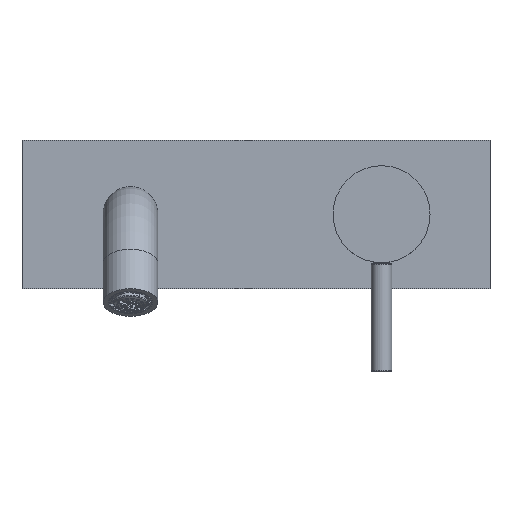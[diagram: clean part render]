
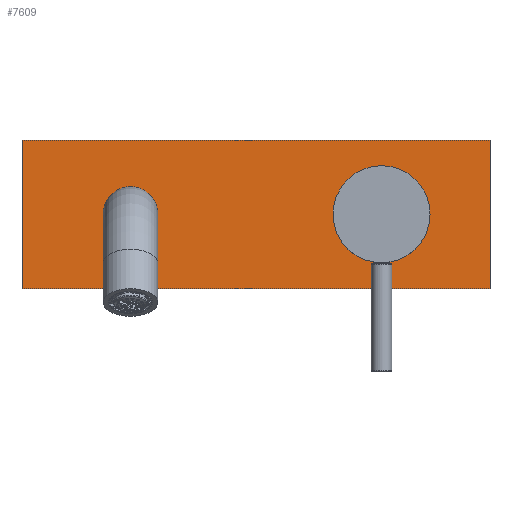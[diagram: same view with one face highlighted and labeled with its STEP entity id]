
A CAD part, top view. The second image highlights one B-rep face of the part: STEP entity #7609.
In plain terms, the highlighted planar face has unit normal (0, 0, 1).
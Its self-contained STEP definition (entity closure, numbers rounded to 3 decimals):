
#1996=CARTESIAN_POINT('',(20.,0.,15.2));
#1997=DIRECTION('',(0.,0.,-1.));
#1998=DIRECTION('',(-1.,0.,0.));
#1999=AXIS2_PLACEMENT_3D('',#1996,#1997,#1998);
#2005=DIRECTION('',(1.,0.,0.));
#2006=VECTOR('',#2005,205.);
#2007=CARTESIAN_POINT('',(-27.5,-32.5,15.2));
#2008=LINE('',#2007,#2006);
#2009=DIRECTION('',(0.,-1.,0.));
#2010=VECTOR('',#2009,65.);
#2011=CARTESIAN_POINT('',(-27.5,32.5,15.2));
#2012=LINE('',#2011,#2010);
#2013=DIRECTION('',(-1.,0.,0.));
#2014=VECTOR('',#2013,205.);
#2015=CARTESIAN_POINT('',(177.5,32.5,15.2));
#2016=LINE('',#2015,#2014);
#2017=DIRECTION('',(0.,1.,0.));
#2018=VECTOR('',#2017,65.);
#2019=CARTESIAN_POINT('',(177.5,-32.5,15.2));
#2020=LINE('',#2019,#2018);
#2021=CARTESIAN_POINT('',(20.,0.,15.2));
#2022=DIRECTION('',(0.,0.,-1.));
#2023=DIRECTION('',(1.,0.,0.));
#2024=AXIS2_PLACEMENT_3D('',#2021,#2022,#2023);
#2030=CARTESIAN_POINT('',(130.,0.,15.2));
#2031=DIRECTION('',(0.,0.,1.));
#2032=DIRECTION('',(0.,1.,0.));
#2033=AXIS2_PLACEMENT_3D('',#2030,#2031,#2032);
#2040=CARTESIAN_POINT('',(130.,0.,15.2));
#2041=DIRECTION('',(0.,0.,1.));
#2042=DIRECTION('',(0.,-1.,0.));
#2043=AXIS2_PLACEMENT_3D('',#2040,#2041,#2042);
#4067=CARTESIAN_POINT('',(-27.5,-32.5,15.2));
#4068=CARTESIAN_POINT('',(177.5,-32.5,15.2));
#4069=VERTEX_POINT('',#4067);
#4070=VERTEX_POINT('',#4068);
#4071=CARTESIAN_POINT('',(177.5,32.5,15.2));
#4072=VERTEX_POINT('',#4071);
#4073=CARTESIAN_POINT('',(-27.5,32.5,15.2));
#4074=VERTEX_POINT('',#4073);
#5064=CARTESIAN_POINT('',(130.,20.5,15.2));
#5065=CARTESIAN_POINT('',(130.,-20.5,15.2));
#5066=VERTEX_POINT('',#5064);
#5067=VERTEX_POINT('',#5065);
#5080=CARTESIAN_POINT('',(8.,0.,15.2));
#5081=CARTESIAN_POINT('',(32.,0.,15.2));
#5082=VERTEX_POINT('',#5080);
#5083=VERTEX_POINT('',#5081);
#7583=CARTESIAN_POINT('',(75.,-32.5,15.2));
#7584=DIRECTION('',(0.,0.,1.));
#7585=DIRECTION('',(1.,0.,0.));
#7586=AXIS2_PLACEMENT_3D('',#7583,#7584,#7585);
#7587=PLANE('',#7586);
#7589=ORIENTED_EDGE('',*,*,#7588,.F.);
#7591=ORIENTED_EDGE('',*,*,#7590,.F.);
#7593=ORIENTED_EDGE('',*,*,#7592,.F.);
#7595=ORIENTED_EDGE('',*,*,#7594,.F.);
#7596=EDGE_LOOP('',(#7589,#7591,#7593,#7595));
#7597=FACE_OUTER_BOUND('',#7596,.F.);
#7599=ORIENTED_EDGE('',*,*,#7598,.T.);
#7601=ORIENTED_EDGE('',*,*,#7600,.T.);
#7602=EDGE_LOOP('',(#7599,#7601));
#7603=FACE_BOUND('',#7602,.F.);
#7604=ORIENTED_EDGE('',*,*,#7566,.F.);
#7606=ORIENTED_EDGE('',*,*,#7605,.F.);
#7607=EDGE_LOOP('',(#7604,#7606));
#7608=FACE_BOUND('',#7607,.F.);
#2000=CIRCLE('',#1999,12.);
#2025=CIRCLE('',#2024,12.);
#2034=CIRCLE('',#2033,20.5);
#2044=CIRCLE('',#2043,20.5);
#7566=EDGE_CURVE('',#5082,#5083,#2000,.T.);
#7588=EDGE_CURVE('',#4069,#4070,#2008,.T.);
#7590=EDGE_CURVE('',#4074,#4069,#2012,.T.);
#7592=EDGE_CURVE('',#4072,#4074,#2016,.T.);
#7594=EDGE_CURVE('',#4070,#4072,#2020,.T.);
#7598=EDGE_CURVE('',#5066,#5067,#2034,.T.);
#7600=EDGE_CURVE('',#5067,#5066,#2044,.T.);
#7605=EDGE_CURVE('',#5083,#5082,#2025,.T.);
#7609=ADVANCED_FACE('',(#7597,#7603,#7608),#7587,.T.);
